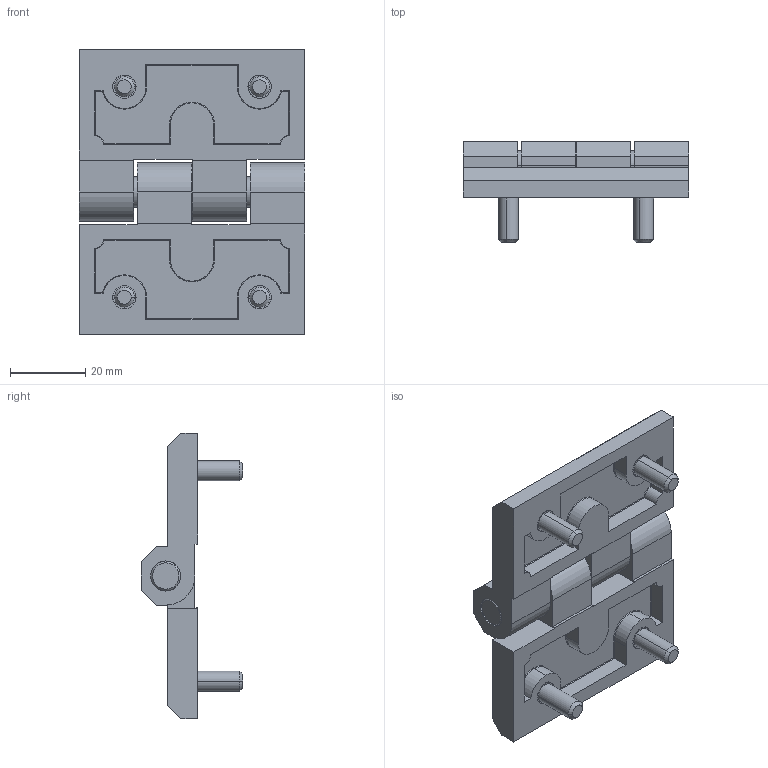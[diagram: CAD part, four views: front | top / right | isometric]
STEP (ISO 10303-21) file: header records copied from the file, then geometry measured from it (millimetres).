
FILE_DESCRIPTION (( 'STEP AP214' ), '1' );
FILE_NAME ('3.ZN66.003.STEP', '2010-03-02T13:32:30', ( '£ukaszC' ), ( '' ), 'SwSTEP 2.0', 'SolidWorks 2008', '' );
FILE_SCHEMA (( 'AUTOMOTIVE_DESIGN' ));
Length unit declared in the file: millimetre
Products named in the file (4): 3.ZN66.001.00_Domyœlna; 3.ZN66.001.01_3.ZN66.001.02; Szpilka; 3.ZN66.003
Assembly tree (7 placements, depth 2):
  3.ZN66.003
    Szpilka  x4
    3.ZN66.001.00_Domyœlna
    3.ZN66.001.01_3.ZN66.001.02  x2
Bounding box: 60 x 27 x 76 mm (x, y, z)
Volume: 33456.4 mm3; surface area: 20338.2 mm2
Topology: 7 solids, 7 shells, 309 faces, 725 edges, 436 vertices
Faces by surface type: plane 128, cylinder 115, cone 36, torus 30
Entity records: 5607 total; most frequent: DIRECTION 987, CARTESIAN_POINT 906, ORIENTED_EDGE 840, EDGE_CURVE 420, AXIS2_PLACEMENT_3D 393, VERTEX_POINT 252, CIRCLE 207, VECTOR 201
